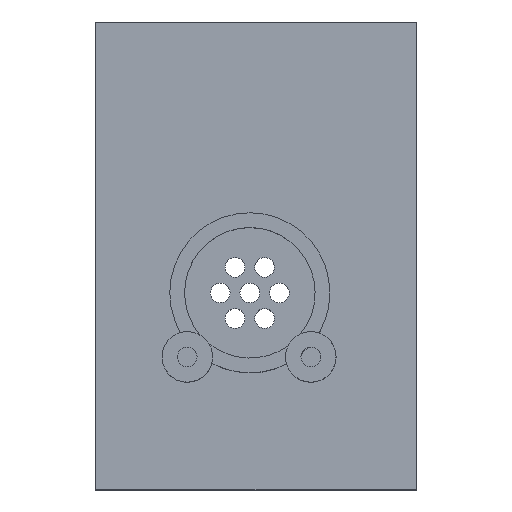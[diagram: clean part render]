
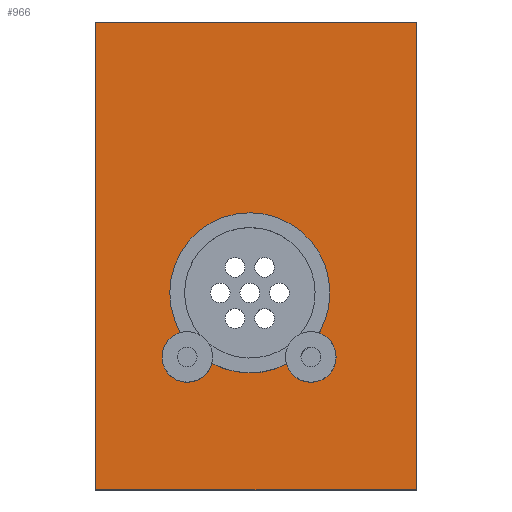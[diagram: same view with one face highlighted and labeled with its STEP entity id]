
A CAD part, top view. The second image highlights one B-rep face of the part: STEP entity #966.
In plain terms, the highlighted planar face has unit normal (0, 0, 1).
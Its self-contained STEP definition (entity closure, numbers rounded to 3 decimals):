
#44 = PLANE('',#45);
#45 = AXIS2_PLACEMENT_3D('',#46,#47,#48);
#46 = CARTESIAN_POINT('',(0.,38.,10.));
#47 = DIRECTION('',(1.,0.,0.));
#48 = DIRECTION('',(0.,0.,-1.));
#72 = PLANE('',#73);
#73 = AXIS2_PLACEMENT_3D('',#74,#75,#76);
#74 = CARTESIAN_POINT('',(0.,38.,10.));
#75 = DIRECTION('',(0.,-1.,0.));
#76 = DIRECTION('',(0.,0.,-1.));
#100 = PLANE('',#101);
#101 = AXIS2_PLACEMENT_3D('',#102,#103,#104);
#102 = CARTESIAN_POINT('',(26.,38.,10.));
#103 = DIRECTION('',(1.,0.,0.));
#104 = DIRECTION('',(0.,0.,-1.));
#126 = PLANE('',#127);
#127 = AXIS2_PLACEMENT_3D('',#128,#129,#130);
#128 = CARTESIAN_POINT('',(0.,0.,10.));
#129 = DIRECTION('',(0.,-1.,0.));
#130 = DIRECTION('',(0.,0.,-1.));
#387 = VERTEX_POINT('',#388);
#388 = CARTESIAN_POINT('',(0.,38.,3.));
#409 = EDGE_CURVE('',#387,#410,#412,.T.);
#410 = VERTEX_POINT('',#411);
#411 = CARTESIAN_POINT('',(0.,0.,3.));
#412 = SURFACE_CURVE('',#413,(#417,#424),.PCURVE_S1.);
#413 = LINE('',#414,#415);
#414 = CARTESIAN_POINT('',(0.,54.5,3.));
#415 = VECTOR('',#416,1.);
#416 = DIRECTION('',(0.,-1.,0.));
#417 = PCURVE('',#44,#418);
#418 = DEFINITIONAL_REPRESENTATION('',(#419),#423);
#419 = LINE('',#420,#421);
#420 = CARTESIAN_POINT('',(7.,16.5));
#421 = VECTOR('',#422,1.);
#422 = DIRECTION('',(0.,-1.));
#423 = ( GEOMETRIC_REPRESENTATION_CONTEXT(2) 
PARAMETRIC_REPRESENTATION_CONTEXT() REPRESENTATION_CONTEXT('2D SPACE',''
  ) );
#424 = PCURVE('',#425,#430);
#425 = PLANE('',#426);
#426 = AXIS2_PLACEMENT_3D('',#427,#428,#429);
#427 = CARTESIAN_POINT('',(-141.5,71.,3.));
#428 = DIRECTION('',(0.,0.,-1.));
#429 = DIRECTION('',(1.,0.,0.));
#430 = DEFINITIONAL_REPRESENTATION('',(#431),#435);
#431 = LINE('',#432,#433);
#432 = CARTESIAN_POINT('',(141.5,16.5));
#433 = VECTOR('',#434,1.);
#434 = DIRECTION('',(0.,1.));
#435 = ( GEOMETRIC_REPRESENTATION_CONTEXT(2) 
PARAMETRIC_REPRESENTATION_CONTEXT() REPRESENTATION_CONTEXT('2D SPACE',''
  ) );
#463 = VERTEX_POINT('',#464);
#464 = CARTESIAN_POINT('',(26.,0.,3.));
#485 = EDGE_CURVE('',#463,#410,#486,.T.);
#486 = SURFACE_CURVE('',#487,(#491,#498),.PCURVE_S1.);
#487 = LINE('',#488,#489);
#488 = CARTESIAN_POINT('',(-70.75,0.,3.));
#489 = VECTOR('',#490,1.);
#490 = DIRECTION('',(-1.,-0.,0.));
#491 = PCURVE('',#126,#492);
#492 = DEFINITIONAL_REPRESENTATION('',(#493),#497);
#493 = LINE('',#494,#495);
#494 = CARTESIAN_POINT('',(7.,-70.75));
#495 = VECTOR('',#496,1.);
#496 = DIRECTION('',(-0.,-1.));
#497 = ( GEOMETRIC_REPRESENTATION_CONTEXT(2) 
PARAMETRIC_REPRESENTATION_CONTEXT() REPRESENTATION_CONTEXT('2D SPACE',''
  ) );
#498 = PCURVE('',#425,#499);
#499 = DEFINITIONAL_REPRESENTATION('',(#500),#504);
#500 = LINE('',#501,#502);
#501 = CARTESIAN_POINT('',(70.75,71.));
#502 = VECTOR('',#503,1.);
#503 = DIRECTION('',(-1.,0.));
#504 = ( GEOMETRIC_REPRESENTATION_CONTEXT(2) 
PARAMETRIC_REPRESENTATION_CONTEXT() REPRESENTATION_CONTEXT('2D SPACE',''
  ) );
#512 = VERTEX_POINT('',#513);
#513 = CARTESIAN_POINT('',(26.,38.,3.));
#534 = EDGE_CURVE('',#512,#463,#535,.T.);
#535 = SURFACE_CURVE('',#536,(#540,#547),.PCURVE_S1.);
#536 = LINE('',#537,#538);
#537 = CARTESIAN_POINT('',(26.,54.5,3.));
#538 = VECTOR('',#539,1.);
#539 = DIRECTION('',(0.,-1.,0.));
#540 = PCURVE('',#100,#541);
#541 = DEFINITIONAL_REPRESENTATION('',(#542),#546);
#542 = LINE('',#543,#544);
#543 = CARTESIAN_POINT('',(7.,16.5));
#544 = VECTOR('',#545,1.);
#545 = DIRECTION('',(0.,-1.));
#546 = ( GEOMETRIC_REPRESENTATION_CONTEXT(2) 
PARAMETRIC_REPRESENTATION_CONTEXT() REPRESENTATION_CONTEXT('2D SPACE',''
  ) );
#547 = PCURVE('',#425,#548);
#548 = DEFINITIONAL_REPRESENTATION('',(#549),#553);
#549 = LINE('',#550,#551);
#550 = CARTESIAN_POINT('',(167.5,16.5));
#551 = VECTOR('',#552,1.);
#552 = DIRECTION('',(0.,1.));
#553 = ( GEOMETRIC_REPRESENTATION_CONTEXT(2) 
PARAMETRIC_REPRESENTATION_CONTEXT() REPRESENTATION_CONTEXT('2D SPACE',''
  ) );
#561 = EDGE_CURVE('',#512,#387,#562,.T.);
#562 = SURFACE_CURVE('',#563,(#567,#574),.PCURVE_S1.);
#563 = LINE('',#564,#565);
#564 = CARTESIAN_POINT('',(-70.75,38.,3.));
#565 = VECTOR('',#566,1.);
#566 = DIRECTION('',(-1.,-0.,0.));
#567 = PCURVE('',#72,#568);
#568 = DEFINITIONAL_REPRESENTATION('',(#569),#573);
#569 = LINE('',#570,#571);
#570 = CARTESIAN_POINT('',(7.,-70.75));
#571 = VECTOR('',#572,1.);
#572 = DIRECTION('',(-0.,-1.));
#573 = ( GEOMETRIC_REPRESENTATION_CONTEXT(2) 
PARAMETRIC_REPRESENTATION_CONTEXT() REPRESENTATION_CONTEXT('2D SPACE',''
  ) );
#574 = PCURVE('',#425,#575);
#575 = DEFINITIONAL_REPRESENTATION('',(#576),#580);
#576 = LINE('',#577,#578);
#577 = CARTESIAN_POINT('',(70.75,33.));
#578 = VECTOR('',#579,1.);
#579 = DIRECTION('',(-1.,0.));
#580 = ( GEOMETRIC_REPRESENTATION_CONTEXT(2) 
PARAMETRIC_REPRESENTATION_CONTEXT() REPRESENTATION_CONTEXT('2D SPACE',''
  ) );
#966 = ADVANCED_FACE('',(#967,#973),#425,.F.);
#967 = FACE_BOUND('',#968,.F.);
#968 = EDGE_LOOP('',(#969,#970,#971,#972));
#969 = ORIENTED_EDGE('',*,*,#409,.F.);
#970 = ORIENTED_EDGE('',*,*,#561,.F.);
#971 = ORIENTED_EDGE('',*,*,#534,.T.);
#972 = ORIENTED_EDGE('',*,*,#485,.T.);
#973 = FACE_BOUND('',#974,.F.);
#974 = EDGE_LOOP('',(#975,#1006,#1035,#1064,#1088));
#975 = ORIENTED_EDGE('',*,*,#976,.F.);
#976 = EDGE_CURVE('',#977,#979,#981,.T.);
#977 = VERTEX_POINT('',#978);
#978 = CARTESIAN_POINT('',(9.406,10.284,3.));
#979 = VERTEX_POINT('',#980);
#980 = CARTESIAN_POINT('',(6.862,12.766,3.));
#981 = SURFACE_CURVE('',#982,(#987,#994),.PCURVE_S1.);
#982 = CIRCLE('',#983,2.05);
#983 = AXIS2_PLACEMENT_3D('',#984,#985,#986);
#984 = CARTESIAN_POINT('',(7.42,10.793,3.));
#985 = DIRECTION('',(0.,0.,-1.));
#986 = DIRECTION('',(1.,0.,0.));
#987 = PCURVE('',#425,#988);
#988 = DEFINITIONAL_REPRESENTATION('',(#989),#993);
#989 = CIRCLE('',#990,2.05);
#990 = AXIS2_PLACEMENT_2D('',#991,#992);
#991 = CARTESIAN_POINT('',(148.92,60.207));
#992 = DIRECTION('',(1.,0.));
#993 = ( GEOMETRIC_REPRESENTATION_CONTEXT(2) 
PARAMETRIC_REPRESENTATION_CONTEXT() REPRESENTATION_CONTEXT('2D SPACE',''
  ) );
#994 = PCURVE('',#995,#1000);
#995 = CYLINDRICAL_SURFACE('',#996,2.05);
#996 = AXIS2_PLACEMENT_3D('',#997,#998,#999);
#997 = CARTESIAN_POINT('',(7.42,10.793,9.));
#998 = DIRECTION('',(-0.,0.,1.));
#999 = DIRECTION('',(1.,0.,0.));
#1000 = DEFINITIONAL_REPRESENTATION('',(#1001),#1005);
#1001 = LINE('',#1002,#1003);
#1002 = CARTESIAN_POINT('',(-0.,-6.));
#1003 = VECTOR('',#1004,1.);
#1004 = DIRECTION('',(-1.,0.));
#1005 = ( GEOMETRIC_REPRESENTATION_CONTEXT(2) 
PARAMETRIC_REPRESENTATION_CONTEXT() REPRESENTATION_CONTEXT('2D SPACE',''
  ) );
#1006 = ORIENTED_EDGE('',*,*,#1007,.F.);
#1007 = EDGE_CURVE('',#1008,#977,#1010,.T.);
#1008 = VERTEX_POINT('',#1009);
#1009 = CARTESIAN_POINT('',(15.483,10.225,3.));
#1010 = SURFACE_CURVE('',#1011,(#1016,#1023),.PCURVE_S1.);
#1011 = CIRCLE('',#1012,6.5);
#1012 = AXIS2_PLACEMENT_3D('',#1013,#1014,#1015);
#1013 = CARTESIAN_POINT('',(12.5,16.,3.));
#1014 = DIRECTION('',(0.,0.,-1.));
#1015 = DIRECTION('',(1.,0.,0.));
#1016 = PCURVE('',#425,#1017);
#1017 = DEFINITIONAL_REPRESENTATION('',(#1018),#1022);
#1018 = CIRCLE('',#1019,6.5);
#1019 = AXIS2_PLACEMENT_2D('',#1020,#1021);
#1020 = CARTESIAN_POINT('',(154.,55.));
#1021 = DIRECTION('',(1.,0.));
#1022 = ( GEOMETRIC_REPRESENTATION_CONTEXT(2) 
PARAMETRIC_REPRESENTATION_CONTEXT() REPRESENTATION_CONTEXT('2D SPACE',''
  ) );
#1023 = PCURVE('',#1024,#1029);
#1024 = CYLINDRICAL_SURFACE('',#1025,6.5);
#1025 = AXIS2_PLACEMENT_3D('',#1026,#1027,#1028);
#1026 = CARTESIAN_POINT('',(12.5,16.,8.));
#1027 = DIRECTION('',(-0.,0.,1.));
#1028 = DIRECTION('',(1.,0.,0.));
#1029 = DEFINITIONAL_REPRESENTATION('',(#1030),#1034);
#1030 = LINE('',#1031,#1032);
#1031 = CARTESIAN_POINT('',(-0.,-5.));
#1032 = VECTOR('',#1033,1.);
#1033 = DIRECTION('',(-1.,0.));
#1034 = ( GEOMETRIC_REPRESENTATION_CONTEXT(2) 
PARAMETRIC_REPRESENTATION_CONTEXT() REPRESENTATION_CONTEXT('2D SPACE',''
  ) );
#1035 = ORIENTED_EDGE('',*,*,#1036,.F.);
#1036 = EDGE_CURVE('',#1037,#1008,#1039,.T.);
#1037 = VERTEX_POINT('',#1038);
#1038 = CARTESIAN_POINT('',(19.503,10.793,3.));
#1039 = SURFACE_CURVE('',#1040,(#1045,#1052),.PCURVE_S1.);
#1040 = CIRCLE('',#1041,2.05);
#1041 = AXIS2_PLACEMENT_3D('',#1042,#1043,#1044);
#1042 = CARTESIAN_POINT('',(17.453,10.793,3.));
#1043 = DIRECTION('',(0.,0.,-1.));
#1044 = DIRECTION('',(1.,0.,0.));
#1045 = PCURVE('',#425,#1046);
#1046 = DEFINITIONAL_REPRESENTATION('',(#1047),#1051);
#1047 = CIRCLE('',#1048,2.05);
#1048 = AXIS2_PLACEMENT_2D('',#1049,#1050);
#1049 = CARTESIAN_POINT('',(158.953,60.207));
#1050 = DIRECTION('',(1.,0.));
#1051 = ( GEOMETRIC_REPRESENTATION_CONTEXT(2) 
PARAMETRIC_REPRESENTATION_CONTEXT() REPRESENTATION_CONTEXT('2D SPACE',''
  ) );
#1052 = PCURVE('',#1053,#1058);
#1053 = CYLINDRICAL_SURFACE('',#1054,2.05);
#1054 = AXIS2_PLACEMENT_3D('',#1055,#1056,#1057);
#1055 = CARTESIAN_POINT('',(17.453,10.793,9.));
#1056 = DIRECTION('',(-0.,0.,1.));
#1057 = DIRECTION('',(1.,0.,0.));
#1058 = DEFINITIONAL_REPRESENTATION('',(#1059),#1063);
#1059 = LINE('',#1060,#1061);
#1060 = CARTESIAN_POINT('',(-0.,-6.));
#1061 = VECTOR('',#1062,1.);
#1062 = DIRECTION('',(-1.,0.));
#1063 = ( GEOMETRIC_REPRESENTATION_CONTEXT(2) 
PARAMETRIC_REPRESENTATION_CONTEXT() REPRESENTATION_CONTEXT('2D SPACE',''
  ) );
#1064 = ORIENTED_EDGE('',*,*,#1065,.F.);
#1065 = EDGE_CURVE('',#1066,#1037,#1068,.T.);
#1066 = VERTEX_POINT('',#1067);
#1067 = CARTESIAN_POINT('',(18.119,12.732,3.));
#1068 = SURFACE_CURVE('',#1069,(#1074,#1081),.PCURVE_S1.);
#1069 = CIRCLE('',#1070,2.05);
#1070 = AXIS2_PLACEMENT_3D('',#1071,#1072,#1073);
#1071 = CARTESIAN_POINT('',(17.453,10.793,3.));
#1072 = DIRECTION('',(0.,0.,-1.));
#1073 = DIRECTION('',(1.,0.,0.));
#1074 = PCURVE('',#425,#1075);
#1075 = DEFINITIONAL_REPRESENTATION('',(#1076),#1080);
#1076 = CIRCLE('',#1077,2.05);
#1077 = AXIS2_PLACEMENT_2D('',#1078,#1079);
#1078 = CARTESIAN_POINT('',(158.953,60.207));
#1079 = DIRECTION('',(1.,0.));
#1080 = ( GEOMETRIC_REPRESENTATION_CONTEXT(2) 
PARAMETRIC_REPRESENTATION_CONTEXT() REPRESENTATION_CONTEXT('2D SPACE',''
  ) );
#1081 = PCURVE('',#1053,#1082);
#1082 = DEFINITIONAL_REPRESENTATION('',(#1083),#1087);
#1083 = LINE('',#1084,#1085);
#1084 = CARTESIAN_POINT('',(-0.,-6.));
#1085 = VECTOR('',#1086,1.);
#1086 = DIRECTION('',(-1.,0.));
#1087 = ( GEOMETRIC_REPRESENTATION_CONTEXT(2) 
PARAMETRIC_REPRESENTATION_CONTEXT() REPRESENTATION_CONTEXT('2D SPACE',''
  ) );
#1088 = ORIENTED_EDGE('',*,*,#1089,.F.);
#1089 = EDGE_CURVE('',#979,#1066,#1090,.T.);
#1090 = SURFACE_CURVE('',#1091,(#1096,#1103),.PCURVE_S1.);
#1091 = CIRCLE('',#1092,6.5);
#1092 = AXIS2_PLACEMENT_3D('',#1093,#1094,#1095);
#1093 = CARTESIAN_POINT('',(12.5,16.,3.));
#1094 = DIRECTION('',(0.,0.,-1.));
#1095 = DIRECTION('',(-0.867,-0.498,0.)
  );
#1096 = PCURVE('',#425,#1097);
#1097 = DEFINITIONAL_REPRESENTATION('',(#1098),#1102);
#1098 = CIRCLE('',#1099,6.5);
#1099 = AXIS2_PLACEMENT_2D('',#1100,#1101);
#1100 = CARTESIAN_POINT('',(154.,55.));
#1101 = DIRECTION('',(-0.867,0.498));
#1102 = ( GEOMETRIC_REPRESENTATION_CONTEXT(2) 
PARAMETRIC_REPRESENTATION_CONTEXT() REPRESENTATION_CONTEXT('2D SPACE',''
  ) );
#1103 = PCURVE('',#1104,#1109);
#1104 = CYLINDRICAL_SURFACE('',#1105,6.5);
#1105 = AXIS2_PLACEMENT_3D('',#1106,#1107,#1108);
#1106 = CARTESIAN_POINT('',(12.5,16.,8.));
#1107 = DIRECTION('',(-0.,0.,1.));
#1108 = DIRECTION('',(1.,0.,0.));
#1109 = DEFINITIONAL_REPRESENTATION('',(#1110),#1114);
#1110 = LINE('',#1111,#1112);
#1111 = CARTESIAN_POINT('',(-2.621,-5.));
#1112 = VECTOR('',#1113,1.);
#1113 = DIRECTION('',(-1.,0.));
#1114 = ( GEOMETRIC_REPRESENTATION_CONTEXT(2) 
PARAMETRIC_REPRESENTATION_CONTEXT() REPRESENTATION_CONTEXT('2D SPACE',''
  ) );
